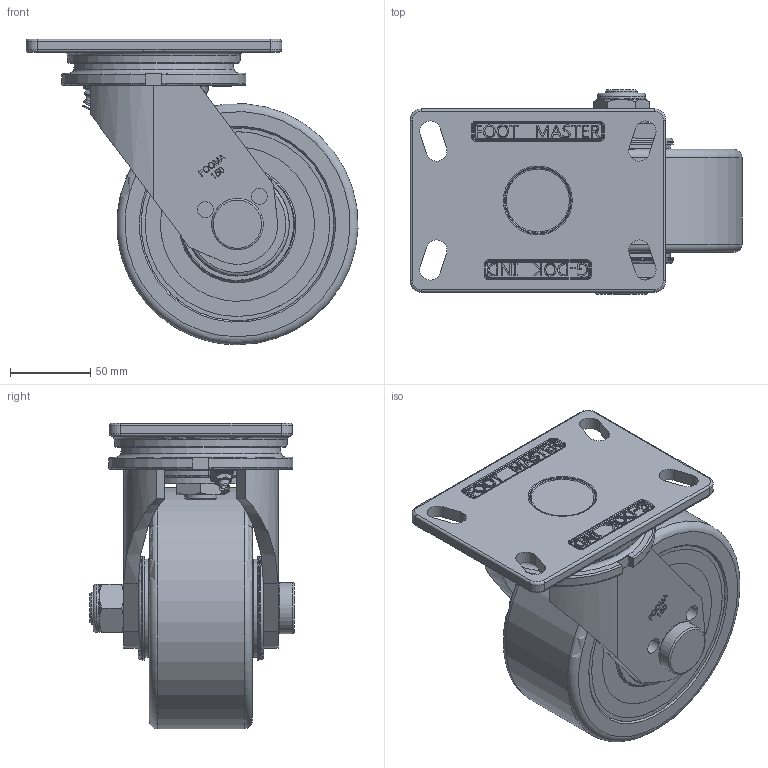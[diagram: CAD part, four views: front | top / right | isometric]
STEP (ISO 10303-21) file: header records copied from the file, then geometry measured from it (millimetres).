
FILE_DESCRIPTION(/* description */ (''),/* implementation_level */ '2;1');
FILE_NAME(/* name */ '\\192.168.10.38\지덕공유\1.기술연구소\손동원\GF-SERIES\3D\GF-150-ASF-MCD.stp',/* time_stamp */ '2023-07-25T14:02:40+09:00',/* author */ ('admin'),/* organization */ (''),/* preprocessor_version */ 'ST-DEVELOPER v18.1',/* originating_system */ 'Autodesk Inventor 2021',/* authorisation */ '');
FILE_SCHEMA (('AUTOMOTIVE_DESIGN { 1 0 10303 214 3 1 1 }'));
Length unit declared in the file: millimetre
Products named in the file (1): GF-150-ASF-MCD
Bounding box: 206.46 x 127 x 190 mm (x, y, z)
Volume: 1663328.9 mm3; surface area: 168147.4 mm2
Topology: 1 solids, 1 shells, 1235 faces, 3359 edges, 2166 vertices
Faces by surface type: plane 451, bspline 421, cylinder 198, torus 98, cone 59, sphere 8
Full cylindrical faces by diameter (mm): 6 x1, 10 x4, 20 x4, 20.2 x2, 24.9 x2, 30 x1, 32 x1, 34 x2, 43 x2, 59 x1, 60.9 x2, 64.519 x2, 150 x1
Entity records: 43136 total; most frequent: CARTESIAN_POINT 14316, ORIENTED_EDGE 6682, DIRECTION 4887, EDGE_CURVE 3341, VERTEX_POINT 2166, LINE 1629, VECTOR 1629, AXIS2_PLACEMENT_3D 1629
